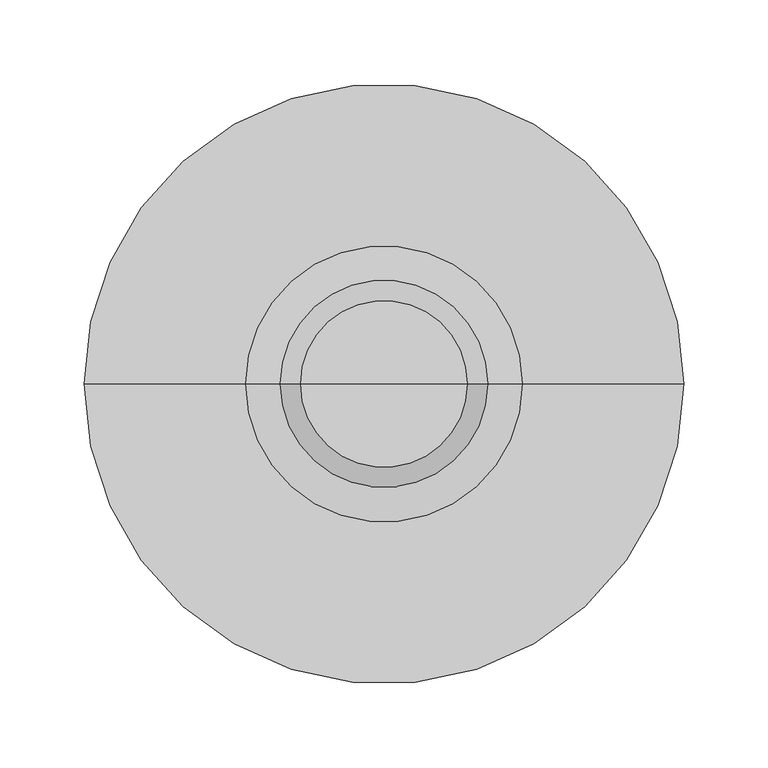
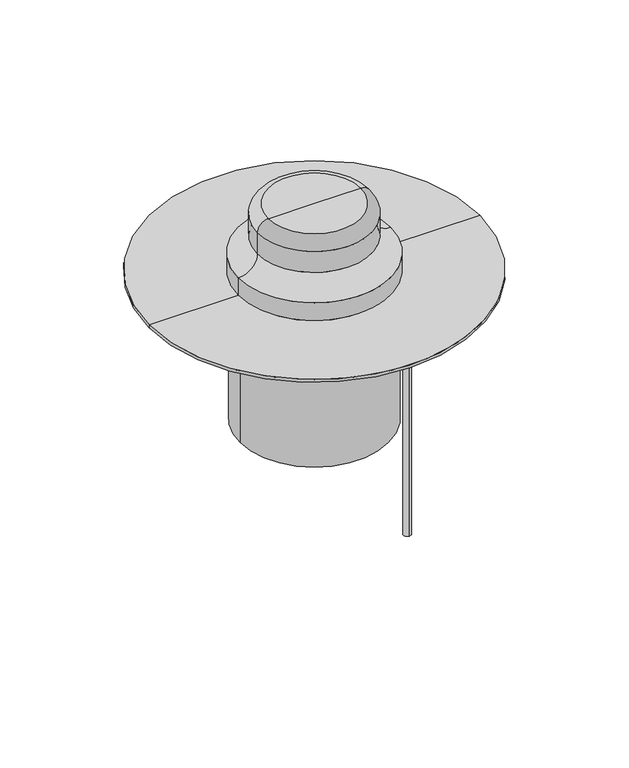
"""IFC4 building model written with IfcOpenShell, lengths in millimetres: flow terminal geometry, BIMLIB_Воронка_Кровельная_Fachmann_VMO : 160х165."""

from ifc_helpers import new_model, si_unit, point, frame, frame_2d, origin, origin_with_axes, place, context, project, spatial, polyline, circle_curve, ellipse_curve, trimmed, segment, composite_curve, outline, extrude, source, transform, mapped, element, save
from ifc_brep_helpers import plane_surface, cylinder_surface, revolved_surface, advanced_brep


def flow_terminal_177bc4c9(model_context):
    return source(origin(), model_context, "Body", "SolidModel", [
        extrude(outline(composite_curve([segment(trimmed(circle_curve(frame_2d((100.0, 0.0)), 4.0), [point((100.0, 4.0))], [point((100.0, -4.0))], False, "CARTESIAN"), True, "CONTINUOUS"), segment(trimmed(circle_curve(frame_2d((100.0, 0.0)), 4.0), [point((100.0, -4.0))], [point((100.0, 4.0))], False, "CARTESIAN"), True, "CONTINUOUS")], self_intersect=False)), frame((0.0, 0.0, -332.0), z_axis=(0.0, 0.0, 1.0), x_axis=(1.0, 0.0, 0.0)), (0.0, 0.0, 1.0), 300.0),
        advanced_brep(
        [(80.0, 0.0, -165.0), (-80.0, 0.0, -165.0), (-80.0, 0.0, -57.0), (80.0, 0.0, -57.0), (-113.0, 0.0, -9.0), (113.0, 0.0, -9.0), (113.0, 0.0, -32.0), (-113.0, 0.0, -32.0), (0.0, 0.0, 0.0), (138.0, 0.0, 0.0), (-138.0, 0.0, 0.0), (-90.0, 0.0, -32.0), (90.0, 0.0, -32.0), (90.0, 0.0, -40.0), (-90.0, 0.0, -40.0)],
        [
            (0, 1, circle_curve(frame((0.0, 0.0, -165.0), z_axis=(0.0, 0.0, -1.0), x_axis=(-1.0, 0.0, 0.0)), 80.0)),
            (1, 0, circle_curve(frame((0.0, 0.0, -165.0), z_axis=(0.0, 0.0, -1.0), x_axis=(-1.0, 0.0, 0.0)), 80.0)),
            (1, 2),
            (2, 3, circle_curve(frame((0.0, 0.0, -57.0), z_axis=(0.0, 0.0, -1.0), x_axis=(-1.0, 0.0, 0.0)), 80.0)),
            (3, 0),
            (3, 2, circle_curve(frame((0.0, 0.0, -57.0), z_axis=(0.0, 0.0, -1.0), x_axis=(-1.0, 0.0, 0.0)), 80.0)),
            (4, 5, circle_curve(frame((0.0, 0.0, -9.0), z_axis=(0.0, 0.0, -1.0), x_axis=(1.0, 0.0, 0.0)), 113.0)),
            (5, 6),
            (6, 7, circle_curve(frame((0.0, 0.0, -32.0), z_axis=(0.0, 0.0, 1.0), x_axis=(1.0, 0.0, 0.0)), 113.0)),
            (7, 4),
            (5, 4, circle_curve(frame((0.0, 0.0, -9.0), z_axis=(0.0, 0.0, -1.0), x_axis=(1.0, 0.0, 0.0)), 113.0)),
            (7, 6, circle_curve(frame((0.0, 0.0, -32.0), z_axis=(0.0, 0.0, 1.0), x_axis=(1.0, 0.0, 0.0)), 113.0)),
            (8, 9),
            (9, 10, circle_curve(origin_with_axes(), 138.0)),
            (10, 8),
            (10, 9, circle_curve(origin_with_axes(), 138.0)),
            (4, 10),
            (9, 5),
            (11, 12, circle_curve(frame((0.0, 0.0, -32.0), z_axis=(0.0, 0.0, -1.0), x_axis=(1.0, 0.0, 0.0)), 90.0)),
            (12, 13),
            (13, 14, circle_curve(frame((0.0, 0.0, -40.0), z_axis=(0.0, 0.0, 1.0), x_axis=(1.0, 0.0, 0.0)), 90.0)),
            (14, 11),
            (12, 11, circle_curve(frame((0.0, 0.0, -32.0), z_axis=(0.0, 0.0, -1.0), x_axis=(1.0, 0.0, 0.0)), 90.0)),
            (14, 13, circle_curve(frame((0.0, 0.0, -40.0), z_axis=(0.0, 0.0, 1.0), x_axis=(1.0, 0.0, 0.0)), 90.0)),
            (6, 12),
            (11, 7),
            (13, 3),
            (2, 14),
        ],
        [
            plane_surface(frame((-80.0, 0.0, -165.0), z_axis=(0.0, 0.0, -1.0), x_axis=(0.0, 1.0, 0.0))),
            cylinder_surface(frame((0.0, 0.0, -165.0), z_axis=(0.0, 0.0, 1.0), x_axis=(-1.0, 0.0, 0.0)), 80.0),
            cylinder_surface(frame((0.0, 0.0, 159.0), z_axis=(0.0, 0.0, 1.0), x_axis=(1.0, 0.0, 0.0)), 113.0),
            plane_surface(origin_with_axes()),
            revolved_surface(polyline([(113.0, 0.0, -9.0), (138.0, 0.0, 0.0)]), (0.0, 0.0, 159.0), (0.0, 0.0, 1.0)),
            cylinder_surface(frame((0.0, 0.0, 159.0), z_axis=(0.0, 0.0, 1.0), x_axis=(1.0, 0.0, 0.0)), 90.0),
            plane_surface(frame((0.0, 0.0, -32.0), z_axis=(0.0, 0.0, -1.0), x_axis=(1.0, 0.0, 0.0))),
            revolved_surface(polyline([(80.0, 0.0, -57.0), (90.0, 0.0, -40.0)]), (0.0, 0.0, 159.0), (0.0, 0.0, 1.0)),
        ],
        [
            (0, [[1, 2]]),
            (1, [[-2, 3, 4, 5]]),
            (1, [[-1, -5, 6, -3]]),
            (2, [[7, 8, 9, 10]]),
            (2, [[-8, 11, -10, 12]]),
            (3, [[13, 14, 15]]),
            (3, [[-13, -15, 16]]),
            (4, [[-7, 17, -14, 18]]),
            (4, [[-11, -18, -16, -17]]),
            (5, [[19, 20, 21, 22]]),
            (5, [[-20, 23, -22, 24]]),
            (6, [[-9, 25, -19, 26]]),
            (6, [[-12, -26, -23, -25]]),
            (7, [[-21, 27, -4, 28]]),
            (7, [[-24, -28, -6, -27]]),
        ],
    ),
        advanced_brep(
        [(0.0, 0.0, 79.0), (49.5, 0.0, 79.0), (-49.5, 0.0, 79.0), (-178.0, 0.0, 0.0), (178.0, 0.0, 0.0), (0.0, 0.0, 0.0), (-178.0, 0.0, 3.0), (178.0, 0.0, 3.0), (-82.0, 0.0, 3.0), (82.0, 0.0, 3.0), (-61.5, 0.0, 67.0), (61.5, 0.0, 67.0), (61.5, 0.0, 43.5), (-61.5, 0.0, 43.5), (-82.0, 0.0, 23.0), (82.0, 0.0, 23.0)],
        [
            (0, 1),
            (1, 2, circle_curve(frame((0.0, 0.0, 79.0), z_axis=(0.0, 0.0, 1.0), x_axis=(1.0, 0.0, 0.0)), 49.5)),
            (2, 0),
            (2, 1, circle_curve(frame((0.0, 0.0, 79.0), z_axis=(0.0, 0.0, 1.0), x_axis=(1.0, 0.0, 0.0)), 49.5)),
            (3, 4, circle_curve(frame((0.0, 0.0, 0.0), z_axis=(0.0, 0.0, -1.0), x_axis=(1.0, 0.0, 0.0)), 178.0)),
            (4, 5),
            (5, 3),
            (4, 3, circle_curve(frame((0.0, 0.0, 0.0), z_axis=(0.0, 0.0, -1.0), x_axis=(1.0, 0.0, 0.0)), 178.0)),
            (6, 7, circle_curve(frame((0.0, 0.0, 3.0), z_axis=(0.0, 0.0, -1.0), x_axis=(1.0, 0.0, 0.0)), 178.0)),
            (7, 4),
            (3, 6),
            (7, 6, circle_curve(frame((0.0, 0.0, 3.0), z_axis=(0.0, 0.0, -1.0), x_axis=(1.0, 0.0, 0.0)), 178.0)),
            (8, 9, circle_curve(frame((0.0, 0.0, 3.0), z_axis=(0.0, 0.0, -1.0), x_axis=(1.0, 0.0, 0.0)), 82.0)),
            (9, 7),
            (6, 8),
            (9, 8, circle_curve(frame((0.0, 0.0, 3.0), z_axis=(0.0, 0.0, -1.0), x_axis=(1.0, 0.0, 0.0)), 82.0)),
            (10, 11, circle_curve(frame((0.0, 0.0, 67.0), z_axis=(0.0, 0.0, -1.0), x_axis=(1.0, 0.0, 0.0)), 61.5)),
            (11, 12),
            (12, 13, circle_curve(frame((0.0, 0.0, 43.5), z_axis=(0.0, 0.0, 1.0), x_axis=(1.0, 0.0, 0.0)), 61.5)),
            (13, 10),
            (11, 10, circle_curve(frame((0.0, 0.0, 67.0), z_axis=(0.0, 0.0, -1.0), x_axis=(1.0, 0.0, 0.0)), 61.5)),
            (13, 12, circle_curve(frame((0.0, 0.0, 43.5), z_axis=(0.0, 0.0, 1.0), x_axis=(1.0, 0.0, 0.0)), 61.5)),
            (1, 11, circle_curve(frame((49.5, 0.0, 67.0), z_axis=(0.0, 1.0, 0.0), x_axis=(1.0, 0.0, 0.0)), 12.0)),
            (10, 2, circle_curve(frame((-49.5, 0.0, 67.0), z_axis=(0.0, 1.0, 0.0), x_axis=(-1.0, 0.0, 0.0)), 12.0)),
            (14, 15, circle_curve(frame((0.0, 0.0, 23.0), z_axis=(0.0, 0.0, -1.0), x_axis=(1.0, 0.0, 0.0)), 82.0)),
            (15, 9),
            (8, 14),
            (15, 14, circle_curve(frame((0.0, 0.0, 23.0), z_axis=(0.0, 0.0, -1.0), x_axis=(1.0, 0.0, 0.0)), 82.0)),
            (12, 15, circle_curve(frame((82.0, 0.0, 43.5), z_axis=(0.0, -1.0, 0.0), x_axis=(1.0, 0.0, 0.0)), 20.5)),
            (14, 13, circle_curve(frame((-82.0, 0.0, 43.5), z_axis=(0.0, -1.0, 0.0), x_axis=(-1.0, 0.0, 0.0)), 20.5)),
        ],
        [
            plane_surface(frame((0.0, 0.0, 79.0), z_axis=(0.0, 0.0, 1.0), x_axis=(1.0, 0.0, 0.0))),
            plane_surface(frame((0.0, 0.0, 0.0), z_axis=(0.0, 0.0, -1.0), x_axis=(1.0, 0.0, 0.0))),
            cylinder_surface(frame((0.0, 0.0, 229.0), z_axis=(0.0, 0.0, 1.0), x_axis=(1.0, 0.0, 0.0)), 178.0),
            plane_surface(frame((0.0, 0.0, 3.0), z_axis=(0.0, 0.0, 1.0), x_axis=(1.0, 0.0, 0.0))),
            cylinder_surface(frame((0.0, 0.0, 229.0), z_axis=(0.0, 0.0, 1.0), x_axis=(1.0, 0.0, 0.0)), 61.5),
            revolved_surface(trimmed(ellipse_curve(frame((49.5, 0.0, 67.0), z_axis=(0.0, -1.0, 0.0), x_axis=(1.0, 0.0, 0.0)), 12.0, 12.0), [point((61.5, 0.0, 67.0))], [point((49.5, 0.0, 79.0))], True, "CARTESIAN"), (0.0, 0.0, 229.0), (0.0, 0.0, 1.0)),
            cylinder_surface(frame((0.0, 0.0, 229.0), z_axis=(0.0, 0.0, 1.0), x_axis=(1.0, 0.0, 0.0)), 82.0),
            revolved_surface(trimmed(ellipse_curve(frame((82.0, 0.0, 43.5), z_axis=(0.0, 1.0, 0.0), x_axis=(1.0, 0.0, 0.0)), 20.5, 20.5), [point((82.0, 0.0, 23.0))], [point((61.5, 0.0, 43.5))], True, "CARTESIAN"), (0.0, 0.0, 229.0), (0.0, 0.0, 1.0)),
        ],
        [
            (0, [[1, 2, 3]]),
            (0, [[-3, 4, -1]]),
            (1, [[5, 6, 7]]),
            (1, [[8, -7, -6]]),
            (2, [[9, 10, -5, 11]]),
            (2, [[12, -11, -8, -10]]),
            (3, [[13, 14, -9, 15]]),
            (3, [[16, -15, -12, -14]]),
            (4, [[17, 18, 19, 20]]),
            (4, [[21, -20, 22, -18]]),
            (5, [[-2, 23, -17, 24]]),
            (5, [[-4, -24, -21, -23]]),
            (6, [[25, 26, -13, 27]]),
            (6, [[28, -27, -16, -26]]),
            (7, [[-19, 29, -25, 30]]),
            (7, [[-22, -30, -28, -29]]),
        ],
    ),
    ])


if __name__ == "__main__":
    model = new_model("IFC4")
    model_context = context("Model", 3, world=origin())
    ifc_project = project(units=[si_unit("LENGTHUNIT", "METRE", prefix="MILLI")], contexts=[model_context])
    site = spatial("IfcSite", under=ifc_project)
    building = spatial("IfcBuilding", under=site)
    placement = place(None, origin())
    flow_terminal_shape = flow_terminal_177bc4c9(model_context)
    element("IfcFlowTerminal", 1, ObjectType="BIMLIB_Воронка_Кровельная_Fachmann_VMO : 160х165", at=placement, inside=building, context=model_context, shape_type="MappedRepresentation", body=[
        mapped(flow_terminal_shape, transform((0.0, 0.0, 0.0), x_axis=(1.0, 0.0, 0.0), y_axis=(0.0, 1.0, 0.0), z_axis=(0.0, 0.0, 1.0))),
    ])
    save(model, "model.ifc")
